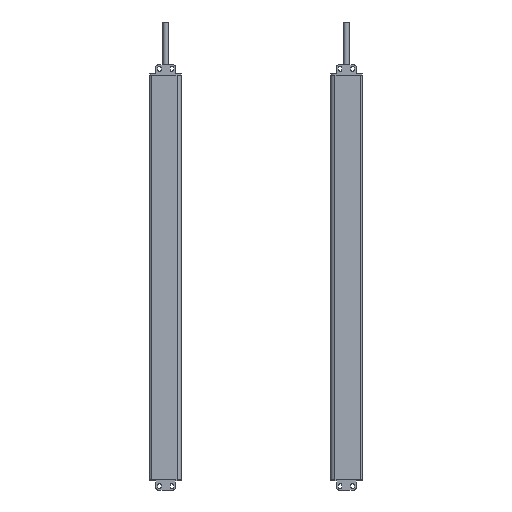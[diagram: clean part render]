
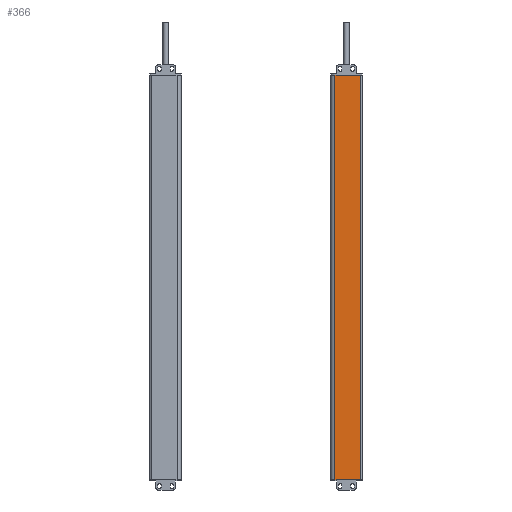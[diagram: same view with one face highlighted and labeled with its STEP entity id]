
A CAD part, front view. The second image highlights one B-rep face of the part: STEP entity #366.
In plain terms, the highlighted planar face has unit normal (0, -1, 0).
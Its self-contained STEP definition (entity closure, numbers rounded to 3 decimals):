
#123=PLANE('',#5869);
#366=ADVANCED_FACE('',(#797),#123,.T.);
#797=FACE_OUTER_BOUND('',#1073,.T.);
#1073=EDGE_LOOP('',(#1780,#1781,#1782,#1783));
#1780=ORIENTED_EDGE('',*,*,#3977,.T.);
#1781=ORIENTED_EDGE('',*,*,#3978,.F.);
#1782=ORIENTED_EDGE('',*,*,#3979,.F.);
#1783=ORIENTED_EDGE('',*,*,#3903,.T.);
#3351=VERTEX_POINT('',#8106);
#3352=VERTEX_POINT('',#8108);
#3421=VERTEX_POINT('',#8253);
#3422=VERTEX_POINT('',#8257);
#3903=EDGE_CURVE('',#3352,#3351,#4726,.T.);
#3977=EDGE_CURVE('',#3351,#3421,#4771,.T.);
#3978=EDGE_CURVE('',#3422,#3421,#4772,.T.);
#3979=EDGE_CURVE('',#3352,#3422,#4773,.T.);
#4726=LINE('',#8107,#5280);
#4771=LINE('',#8254,#5325);
#4772=LINE('',#8256,#5326);
#4773=LINE('',#8258,#5327);
#5280=VECTOR('',#6413,1.);
#5325=VECTOR('',#6522,1.);
#5326=VECTOR('',#6525,1.);
#5327=VECTOR('',#6526,1.);
#5869=AXIS2_PLACEMENT_3D('',#8259,#6527,#6528);
#6413=DIRECTION('',(1.,0.,0.));
#6522=DIRECTION('',(0.,0.,1.));
#6525=DIRECTION('',(1.,0.,0.));
#6526=DIRECTION('',(0.,0.,1.));
#6527=DIRECTION('',(0.,-1.,0.));
#6528=DIRECTION('',(1.,0.,0.));
#8106=CARTESIAN_POINT('',(3.35,-1.3,-100.));
#8107=CARTESIAN_POINT('',(-21.15,-1.3,-100.));
#8108=CARTESIAN_POINT('',(-21.15,-1.3,-100.));
#8253=CARTESIAN_POINT('',(3.35,-1.3,282.));
#8254=CARTESIAN_POINT('',(3.35,-1.3,-100.));
#8256=CARTESIAN_POINT('',(-4122.897,-1.3,282.));
#8257=CARTESIAN_POINT('',(-21.15,-1.3,282.));
#8258=CARTESIAN_POINT('',(-21.15,-1.3,-100.));
#8259=CARTESIAN_POINT('',(-21.15,-1.3,-100.));
